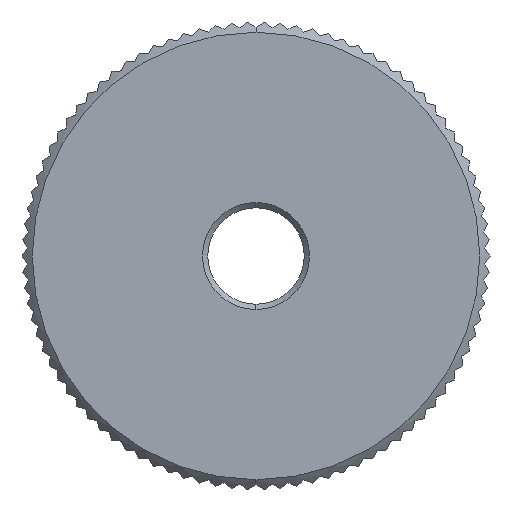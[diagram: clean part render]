
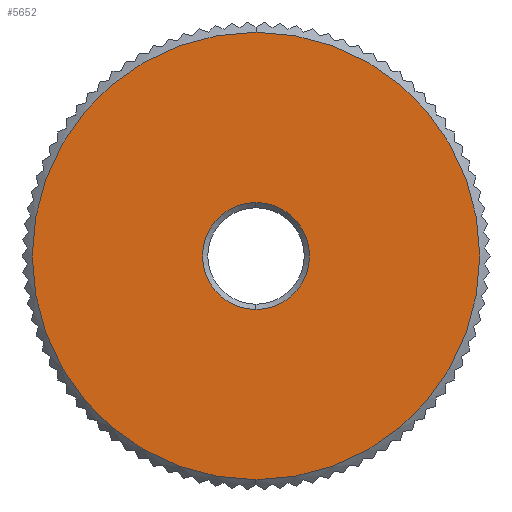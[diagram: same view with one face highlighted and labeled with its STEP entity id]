
A CAD part, left-side view. The second image highlights one B-rep face of the part: STEP entity #5652.
In plain terms, the highlighted planar face has unit normal (-1, 0, 0).
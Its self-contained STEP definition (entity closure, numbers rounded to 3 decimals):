
#2338 = DIRECTION ( 'NONE',  ( 0., 0., -1. ) ) ;
#2339 = DIRECTION ( 'NONE',  ( 1., 0., 0. ) ) ;
#2340 = CARTESIAN_POINT ( 'NONE',  ( -3.5, 0., 0. ) ) ;
#2341 = AXIS2_PLACEMENT_3D ( 'NONE', #2340, #2339, #2338 ) ;
#2342 = CIRCLE ( 'NONE', #2341, 1.83 ) ;
#3002 = CARTESIAN_POINT ( 'NONE',  ( -3.5, 0., 7.65 ) ) ;
#3003 = CARTESIAN_POINT ( 'NONE',  ( -3.5, 0., -7.65 ) ) ;
#3013 = DIRECTION ( 'NONE',  ( 0., 0., -1. ) ) ;
#3014 = DIRECTION ( 'NONE',  ( -1., 0., 0. ) ) ;
#3015 = CARTESIAN_POINT ( 'NONE',  ( -3.5, 0., 0. ) ) ;
#3016 = AXIS2_PLACEMENT_3D ( 'NONE', #3015, #3014, #3013 ) ;
#3017 = CIRCLE ( 'NONE', #3016, 7.65 ) ;
#3278 = DIRECTION ( 'NONE',  ( 0., 0., -1. ) ) ;
#3279 = DIRECTION ( 'NONE',  ( 1., 0., 0. ) ) ;
#3280 = CARTESIAN_POINT ( 'NONE',  ( -3.5, 0., 0. ) ) ;
#3281 = AXIS2_PLACEMENT_3D ( 'NONE', #3280, #3279, #3278 ) ;
#3283 = PLANE ( 'NONE',  #3281 ) ;
#3284 = FACE_OUTER_BOUND ( 'NONE', #5083, .T. ) ;
#3285 = FACE_BOUND ( 'NONE', #5647, .T. ) ;
#3440 = DIRECTION ( 'NONE',  ( 0., 0., -1. ) ) ;
#3441 = DIRECTION ( 'NONE',  ( -1., 0., 0. ) ) ;
#3442 = CARTESIAN_POINT ( 'NONE',  ( -3.5, 0., 0. ) ) ;
#3443 = AXIS2_PLACEMENT_3D ( 'NONE', #3442, #3441, #3440 ) ;
#3444 = CIRCLE ( 'NONE', #3443, 7.65 ) ;
#3488 = CARTESIAN_POINT ( 'NONE',  ( -3.5, 0., 1.83 ) ) ;
#3499 = DIRECTION ( 'NONE',  ( 0., 0., -1. ) ) ;
#3500 = DIRECTION ( 'NONE',  ( 1., 0., 0. ) ) ;
#3501 = AXIS2_PLACEMENT_3D ( 'NONE', #3505, #3500, #3499 ) ;
#3502 = CIRCLE ( 'NONE', #3501, 1.83 ) ;
#3505 = CARTESIAN_POINT ( 'NONE',  ( -3.5, 0., 0. ) ) ;
#3564 = CARTESIAN_POINT ( 'NONE',  ( -3.5, 0., -1.83 ) ) ;
#5083 = EDGE_LOOP ( 'NONE', ( #5740, #5742 ) ) ;
#5115 = EDGE_CURVE ( 'NONE', #5820, #5788, #2342, .T. ) ;
#5504 = VERTEX_POINT ( 'NONE', #3003 ) ;
#5505 = VERTEX_POINT ( 'NONE', #3002 ) ;
#5529 = EDGE_CURVE ( 'NONE', #5505, #5504, #3017, .T. ) ;
#5647 = EDGE_LOOP ( 'NONE', ( #5693, #6384 ) ) ;
#5652 = ADVANCED_FACE ( 'NONE', ( #3285, #3284 ), #3283, .F. ) ;
#5693 = ORIENTED_EDGE ( 'NONE', *, *, #5783, .T. ) ;
#5737 = EDGE_CURVE ( 'NONE', #5504, #5505, #3444, .T. ) ;
#5740 = ORIENTED_EDGE ( 'NONE', *, *, #5737, .T. ) ;
#5742 = ORIENTED_EDGE ( 'NONE', *, *, #5529, .T. ) ;
#5783 = EDGE_CURVE ( 'NONE', #5788, #5820, #3502, .T. ) ;
#5788 = VERTEX_POINT ( 'NONE', #3488 ) ;
#5820 = VERTEX_POINT ( 'NONE', #3564 ) ;
#6384 = ORIENTED_EDGE ( 'NONE', *, *, #5115, .T. ) ;
